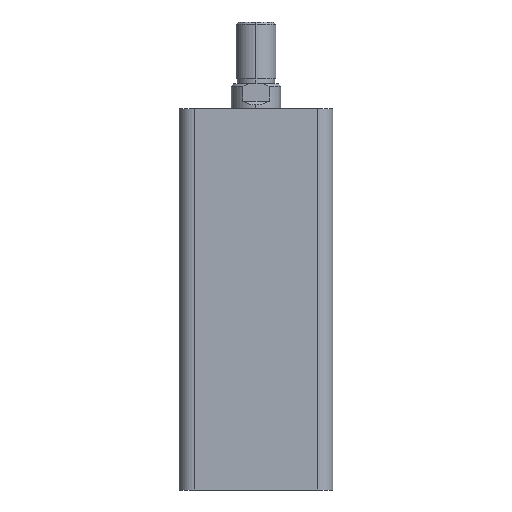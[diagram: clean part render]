
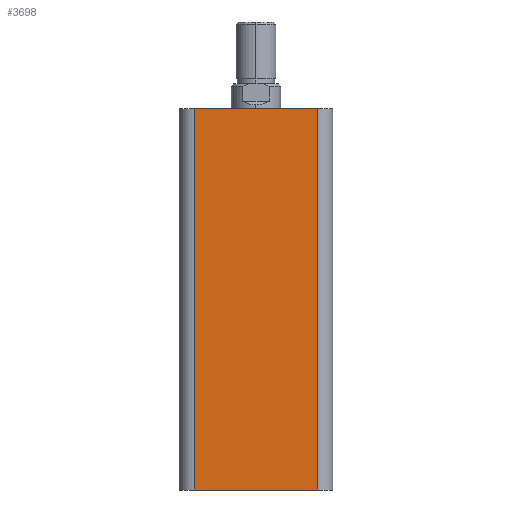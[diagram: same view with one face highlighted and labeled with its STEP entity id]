
A CAD part, left-side view. The second image highlights one B-rep face of the part: STEP entity #3698.
In plain terms, the highlighted planar face has unit normal (-1, 0, 0).
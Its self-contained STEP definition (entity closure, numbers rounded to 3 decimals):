
#17 = VERTEX_POINT ( 'NONE', #3002 ) ;
#65 = VERTEX_POINT ( 'NONE', #4647 ) ;
#555 = DIRECTION ( 'NONE',  ( 1., 0., 0. ) ) ;
#557 = PLANE ( 'NONE',  #2030 ) ;
#559 = CARTESIAN_POINT ( 'NONE',  ( -31., 31., 154. ) ) ;
#561 = DIRECTION ( 'NONE',  ( 0., 0., -1. ) ) ;
#705 = CARTESIAN_POINT ( 'NONE',  ( -31., 25., 154. ) ) ;
#711 = CARTESIAN_POINT ( 'NONE',  ( -31., -25., 154. ) ) ;
#940 = EDGE_LOOP ( 'NONE', ( #3799, #3800, #3803, #3798 ) ) ;
#1517 = VECTOR ( 'NONE', #2306, 1000. ) ;
#1528 = LINE ( 'NONE', #2305, #1517 ) ;
#1549 = LINE ( 'NONE', #2453, #1553 ) ;
#1553 = VECTOR ( 'NONE', #2451, 1000. ) ;
#1567 = LINE ( 'NONE', #2477, #1570 ) ;
#1569 = LINE ( 'NONE', #2479, #1572 ) ;
#1570 = VECTOR ( 'NONE', #2478, 1000. ) ;
#1572 = VECTOR ( 'NONE', #2480, 1000. ) ;
#2030 = AXIS2_PLACEMENT_3D ( 'NONE', #559, #555, #561 ) ;
#2305 = CARTESIAN_POINT ( 'NONE',  ( -31., 31., 154. ) ) ;
#2306 = DIRECTION ( 'NONE',  ( 0., -1., 0. ) ) ;
#2451 = DIRECTION ( 'NONE',  ( 0., -1., 0. ) ) ;
#2453 = CARTESIAN_POINT ( 'NONE',  ( -31., 31., 0. ) ) ;
#2477 = CARTESIAN_POINT ( 'NONE',  ( -31., -25., 154. ) ) ;
#2478 = DIRECTION ( 'NONE',  ( 0., 0., 1. ) ) ;
#2479 = CARTESIAN_POINT ( 'NONE',  ( -31., 25., 154. ) ) ;
#2480 = DIRECTION ( 'NONE',  ( 0., 0., -1. ) ) ;
#2839 = EDGE_CURVE ( 'NONE', #4815, #4821, #1528, .T. ) ;
#2901 = EDGE_CURVE ( 'NONE', #17, #65, #1549, .T. ) ;
#2911 = EDGE_CURVE ( 'NONE', #65, #4821, #1567, .T. ) ;
#2912 = EDGE_CURVE ( 'NONE', #4815, #17, #1569, .T. ) ;
#3002 = CARTESIAN_POINT ( 'NONE',  ( -31., 25., 0. ) ) ;
#3698 = ADVANCED_FACE ( 'NONE', ( #4994 ), #557, .F. ) ;
#3798 = ORIENTED_EDGE ( 'NONE', *, *, #2912, .T. ) ;
#3799 = ORIENTED_EDGE ( 'NONE', *, *, #2901, .T. ) ;
#3800 = ORIENTED_EDGE ( 'NONE', *, *, #2911, .T. ) ;
#3803 = ORIENTED_EDGE ( 'NONE', *, *, #2839, .F. ) ;
#4647 = CARTESIAN_POINT ( 'NONE',  ( -31., -25., 0. ) ) ;
#4815 = VERTEX_POINT ( 'NONE', #705 ) ;
#4821 = VERTEX_POINT ( 'NONE', #711 ) ;
#4994 = FACE_OUTER_BOUND ( 'NONE', #940, .T. ) ;
